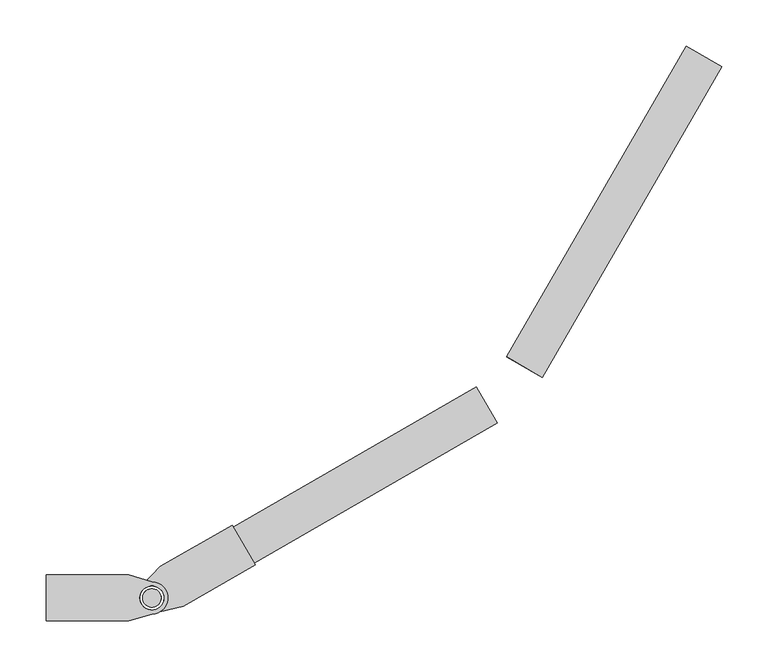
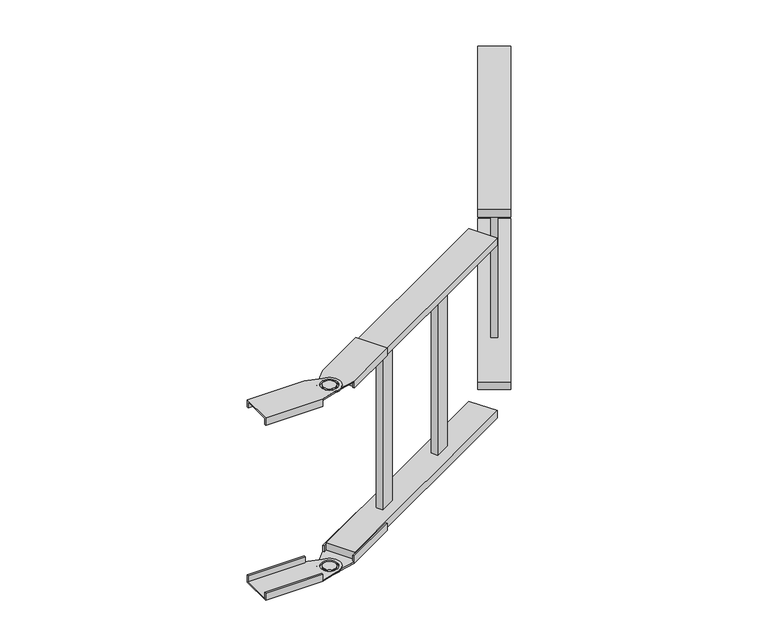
"""IFC4 building model written with IfcOpenShell, lengths in millimetres: cable carrier fitting geometry, BAKS_LD_BEND_Adjustable vertical bend_LPD : LPDC_H45."""

from ifc_helpers import new_model, si_unit, frame, origin, place, context, project, spatial, polyline, circle_curve, outline, extrude, source, transform, mapped, element, save
from ifc_brep_helpers import plane_surface, cylinder_surface, revolved_surface, advanced_brep


def cable_carrier_fitting_a79e1fa7(model_context):
    return source(origin(), model_context, "Body", "SolidModel", [
        advanced_brep(
        [(-729.7114317, 25.0, -152.0), (-639.7114317, 25.0, -152.0), (-614.7114317, 17.5, -152.0), (-614.7114317, -17.5, -152.0), (-639.7114317, -25.0, -152.0), (-729.7114317, -25.0, -152.0), (-601.7114317, 0.0, -152.0), (-627.7114317, 0.0, -152.0), (-639.7114317, -25.0, -150.0), (-614.7114317, -17.5, -150.0), (-614.7114317, 17.5, -150.0), (-639.7114317, 25.0, -150.0), (-639.7114317, 22.5, -150.0), (-729.7114317, 22.5, -150.0), (-729.7114317, -22.5, -150.0), (-639.7114317, -22.5, -150.0), (-627.7114317, 0.0, -150.0), (-601.7114317, 0.0, -150.0), (-729.7114317, 25.0, -140.0), (-639.7114317, 25.0, -140.0), (-639.7114317, -25.0, -140.0), (-729.7114317, -25.0, -140.0), (-729.7114317, -22.5, -140.0), (-729.7114317, 22.5, -140.0), (-639.7114317, -22.5, -140.0), (-639.7114317, 22.5, -140.0)],
        [
            (0, 1),
            (1, 2),
            (2, 3, circle_curve(frame((-614.7114317, 0.0, -152.0), z_axis=(0.0, 0.0, -1.0), x_axis=(-1.0, 0.0, 0.0)), 17.5)),
            (3, 4),
            (4, 5),
            (5, 0),
            (6, 7, circle_curve(frame((-614.7114317, 0.0, -152.0), z_axis=(0.0, 0.0, 1.0), x_axis=(-1.0, 0.0, 0.0)), 13.0)),
            (7, 6, circle_curve(frame((-614.7114317, 0.0, -152.0), z_axis=(0.0, 0.0, 1.0), x_axis=(-1.0, 0.0, 0.0)), 13.0)),
            (8, 9),
            (9, 10, circle_curve(frame((-614.7114317, 0.0, -150.0), z_axis=(0.0, 0.0, 1.0), x_axis=(-1.0, 0.0, 0.0)), 17.5)),
            (10, 11),
            (11, 12),
            (12, 13),
            (13, 14),
            (14, 15),
            (15, 8),
            (16, 17, circle_curve(frame((-614.7114317, 0.0, -150.0), z_axis=(0.0, 0.0, -1.0), x_axis=(-1.0, 0.0, 0.0)), 13.0)),
            (17, 16, circle_curve(frame((-614.7114317, 0.0, -150.0), z_axis=(0.0, 0.0, -1.0), x_axis=(-1.0, 0.0, 0.0)), 13.0)),
            (0, 18),
            (18, 19),
            (19, 11),
            (11, 1),
            (4, 8),
            (8, 20),
            (20, 21),
            (21, 5),
            (21, 22),
            (22, 14),
            (13, 23),
            (23, 18),
            (6, 17),
            (16, 7),
            (10, 2),
            (9, 3),
            (20, 24),
            (24, 22),
            (24, 15),
            (23, 25),
            (25, 19),
            (25, 12),
        ],
        [
            plane_surface(frame((-639.7114317, 25.0, -152.0), z_axis=(0.0, 0.0, -1.0), x_axis=(1.0, 0.0, 0.0))),
            plane_surface(frame((-639.7114317, 25.0, -150.0), z_axis=(0.0, 0.0, 1.0), x_axis=(-1.0, 0.0, 0.0))),
            plane_surface(frame((-729.7114317, 25.0, -152.0), z_axis=(0.0, 1.0, 0.0), x_axis=(0.0, 0.0, 1.0))),
            plane_surface(frame((-639.7114317, -25.0, -152.0), z_axis=(0.0, -1.0, 0.0), x_axis=(0.0, 0.0, 1.0))),
            plane_surface(frame((-729.7114317, -25.0, -152.0), z_axis=(-1.0, 0.0, 0.0), x_axis=(0.0, 0.0, 1.0))),
            revolved_surface(polyline([(-627.7114317, 0.0, -152.0), (-627.7114317, 0.0, -150.0)]), (-614.7114317, 0.0, -150.0), (0.0, 0.0, -1.0)),
            plane_surface(frame((-639.7114317, 25.0, -152.0), z_axis=(0.28734788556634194, 0.9578262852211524, 0.0), x_axis=(0.0, 0.0, 1.0))),
            cylinder_surface(frame((-614.7114317, 0.0, -150.0), z_axis=(0.0, 0.0, -1.0), x_axis=(-1.0, 0.0, 0.0)), 17.5),
            plane_surface(frame((-614.7114317, -17.5, -152.0), z_axis=(0.2873478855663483, -0.9578262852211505, 0.0), x_axis=(0.0, 0.0, 1.0))),
            plane_surface(frame((-639.7114317, -22.5, -140.0), z_axis=(0.0, 0.0, 1.0), x_axis=(-1.0, 0.0, 0.0))),
            plane_surface(frame((-729.7114317, -22.5, -150.0), z_axis=(0.0, 1.0, 0.0), x_axis=(0.0, 0.0, 1.0))),
            plane_surface(frame((-639.7114317, -22.5, -150.0), z_axis=(1.0, 0.0, 0.0), x_axis=(0.0, 0.0, 1.0))),
            plane_surface(frame((-639.7114317, 25.0, -140.0), z_axis=(0.0, 0.0, 1.0), x_axis=(-1.0, 0.0, 0.0))),
            plane_surface(frame((-639.7114317, 25.0, -150.0), z_axis=(1.0, 0.0, 0.0), x_axis=(0.0, 0.0, 1.0))),
            plane_surface(frame((-639.7114317, 22.5, -150.0), z_axis=(0.0, -1.0, 0.0), x_axis=(0.0, 0.0, 1.0))),
        ],
        [
            (0, [[1, 2, 3, 4, 5, 6], [7, 8]]),
            (1, [[9, 10, 11, 12, 13, 14, 15, 16], [17, 18]]),
            (2, [[-1, 19, 20, 21, 22]]),
            (3, [[-5, 23, 24, 25, 26]]),
            (4, [[-19, -6, -26, 27, 28, -14, 29, 30]]),
            (5, [[31, -17, 32, -7]]),
            (5, [[-31, -8, -32, -18]]),
            (6, [[-2, -22, -11, 33]]),
            (7, [[-3, -33, -10, 34]]),
            (8, [[-4, -34, -9, -23]]),
            (9, [[-27, -25, 35, 36]]),
            (10, [[-36, 37, -15, -28]]),
            (11, [[-35, -24, -16, -37]]),
            (12, [[-30, 38, 39, -20]]),
            (13, [[-39, 40, -12, -21]]),
            (14, [[-38, -29, -13, -40]]),
        ],
    ),
        advanced_brep(
        [(-604.7114317, 0.0, -152.0), (-624.7114317, 0.0, -152.0), (-624.7114317, 0.0, -150.0), (-604.7114317, 0.0, -150.0)],
        [
            (0, 1, circle_curve(frame((-614.7114317, 0.0, -152.0), z_axis=(0.0, 0.0, -1.0), x_axis=(-1.0, 0.0, 0.0)), 10.0)),
            (1, 0, circle_curve(frame((-614.7114317, 0.0, -152.0), z_axis=(0.0, 0.0, -1.0), x_axis=(-1.0, 0.0, 0.0)), 10.0)),
            (2, 3, circle_curve(frame((-614.7114317, 0.0, -150.0), z_axis=(0.0, 0.0, 1.0), x_axis=(-1.0, 0.0, 0.0)), 10.0)),
            (3, 2, circle_curve(frame((-614.7114317, 0.0, -150.0), z_axis=(0.0, 0.0, 1.0), x_axis=(-1.0, 0.0, 0.0)), 10.0)),
            (0, 3),
            (2, 1),
        ],
        [
            plane_surface(frame((-639.7114317, 25.0, -152.0), z_axis=(0.0, 0.0, -1.0), x_axis=(1.0, 0.0, 0.0))),
            plane_surface(frame((-639.7114317, 25.0, -150.0), z_axis=(0.0, 0.0, 1.0), x_axis=(-1.0, 0.0, 0.0))),
            cylinder_surface(frame((-614.7114317, 0.0, -150.0), z_axis=(0.0, 0.0, 1.0), x_axis=(-1.0, 0.0, 0.0)), 10.0),
        ],
        [
            (0, [[1, 2]]),
            (1, [[3, 4]]),
            (2, [[5, -3, 6, -1]]),
            (2, [[-5, -2, -6, -4]]),
        ],
    ),
        advanced_brep(
        [(-527.6185103, 79.1506351, -152.0), (-502.6185103, 35.8493649, -152.0), (-580.5607966, -9.1506351, -152.0), (-605.9614317, -15.1554446, -152.0), (-623.4614317, 15.1554446, -152.0), (-605.5607966, 34.1506351, -152.0), (-625.969762, -6.5, -152.0), (-603.4531015, 6.5, -152.0), (-580.5607966, -9.1506351, -150.0), (-581.8107966, -6.9855716, -150.0), (-503.8685103, 38.0144284, -150.0), (-526.3685103, 76.9855716, -150.0), (-604.3107966, 31.9855716, -150.0), (-605.5607966, 34.1506351, -150.0), (-623.4614317, 15.1554446, -150.0), (-605.9614317, -15.1554446, -150.0), (-603.4531015, 6.5, -150.0), (-625.969762, -6.5, -150.0), (-605.5607966, 34.1506351, -140.0), (-527.6185103, 79.1506351, -140.0), (-502.6185103, 35.8493649, -140.0), (-580.5607966, -9.1506351, -140.0), (-526.3685103, 76.9855716, -140.0), (-503.8685103, 38.0144284, -140.0), (-581.8107966, -6.9855716, -140.0), (-604.3107966, 31.9855716, -140.0)],
        [
            (0, 1),
            (1, 2),
            (2, 3),
            (3, 4, circle_curve(frame((-614.7114317, 0.0, -152.0), z_axis=(0.0, 0.0, -1.0), x_axis=(0.8660254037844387, 0.49999999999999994, 0.0)), 17.5)),
            (4, 5),
            (5, 0),
            (6, 7, circle_curve(frame((-614.7114317, 0.0, -152.0), z_axis=(0.0, 0.0, 1.0), x_axis=(0.8660254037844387, 0.49999999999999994, 0.0)), 13.0)),
            (7, 6, circle_curve(frame((-614.7114317, 0.0, -152.0), z_axis=(0.0, 0.0, 1.0), x_axis=(0.8660254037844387, 0.49999999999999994, 0.0)), 13.0)),
            (8, 9),
            (9, 10),
            (10, 11),
            (11, 12),
            (12, 13),
            (13, 14),
            (14, 15, circle_curve(frame((-614.7114317, 0.0, -150.0), z_axis=(0.0, 0.0, 1.0), x_axis=(0.8660254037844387, 0.49999999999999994, 0.0)), 17.5)),
            (15, 8),
            (16, 17, circle_curve(frame((-614.7114317, 0.0, -150.0), z_axis=(0.0, 0.0, -1.0), x_axis=(0.8660254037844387, 0.49999999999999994, 0.0)), 13.0)),
            (17, 16, circle_curve(frame((-614.7114317, 0.0, -150.0), z_axis=(0.0, 0.0, -1.0), x_axis=(0.8660254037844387, 0.49999999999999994, 0.0)), 13.0)),
            (5, 13),
            (13, 18),
            (18, 19),
            (19, 0),
            (1, 20),
            (20, 21),
            (21, 8),
            (8, 2),
            (19, 22),
            (22, 11),
            (10, 23),
            (23, 20),
            (7, 16),
            (17, 6),
            (4, 14),
            (3, 15),
            (23, 24),
            (24, 21),
            (9, 24),
            (18, 25),
            (25, 22),
            (12, 25),
        ],
        [
            plane_surface(frame((-605.5607966, 34.1506351, -152.0), z_axis=(0.0, 0.0, -1.0), x_axis=(-0.8660254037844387, -0.49999999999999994, 0.0))),
            plane_surface(frame((-605.5607966, 34.1506351, -150.0), z_axis=(0.0, 0.0, 1.0), x_axis=(0.8660254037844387, 0.49999999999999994, 0.0))),
            plane_surface(frame((-527.6185103, 79.1506351, -152.0), z_axis=(-0.49999999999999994, 0.8660254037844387, 0.0), x_axis=(0.0, 0.0, 1.0))),
            plane_surface(frame((-580.5607966, -9.1506351, -152.0), z_axis=(0.49999999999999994, -0.8660254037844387, 0.0), x_axis=(0.0, 0.0, 1.0))),
            plane_surface(frame((-502.6185103, 35.8493649, -152.0), z_axis=(0.8660254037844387, 0.49999999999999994, 0.0), x_axis=(0.0, 0.0, 1.0))),
            revolved_surface(polyline([(-603.4531014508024, 6.499999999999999, -152.0), (-603.4531014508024, 6.499999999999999, -150.0)]), (-614.7114317, 0.0, -150.0), (0.0, 0.0, -1.0)),
            plane_surface(frame((-605.5607966, 34.1506351, -152.0), z_axis=(-0.7277637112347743, 0.6858279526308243, 0.0), x_axis=(0.0, 0.0, 1.0))),
            cylinder_surface(frame((-614.7114317, 0.0, -150.0), z_axis=(0.0, 0.0, -1.0), x_axis=(0.8660254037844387, 0.49999999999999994, 0.0)), 17.5),
            plane_surface(frame((-605.9614317, -15.1554446, -152.0), z_axis=(0.2300625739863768, -0.9731758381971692, 0.0), x_axis=(0.0, 0.0, 1.0))),
            plane_surface(frame((-581.8107966, -6.9855716, -140.0), z_axis=(0.0, 0.0, 1.0), x_axis=(0.8660254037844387, 0.49999999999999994, 0.0))),
            plane_surface(frame((-503.8685103, 38.0144284, -150.0), z_axis=(-0.49999999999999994, 0.8660254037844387, 0.0), x_axis=(0.0, 0.0, 1.0))),
            plane_surface(frame((-581.8107966, -6.9855716, -150.0), z_axis=(-0.8660254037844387, -0.49999999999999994, 0.0), x_axis=(0.0, 0.0, 1.0))),
            plane_surface(frame((-605.5607966, 34.1506351, -140.0), z_axis=(0.0, 0.0, 1.0), x_axis=(0.8660254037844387, 0.49999999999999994, 0.0))),
            plane_surface(frame((-605.5607966, 34.1506351, -150.0), z_axis=(-0.8660254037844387, -0.49999999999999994, 0.0), x_axis=(0.0, 0.0, 1.0))),
            plane_surface(frame((-604.3107966, 31.9855716, -150.0), z_axis=(0.49999999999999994, -0.8660254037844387, 0.0), x_axis=(0.0, 0.0, 1.0))),
        ],
        [
            (0, [[1, 2, 3, 4, 5, 6], [7, 8]]),
            (1, [[9, 10, 11, 12, 13, 14, 15, 16], [17, 18]]),
            (2, [[19, 20, 21, 22, -6]]),
            (3, [[23, 24, 25, 26, -2]]),
            (4, [[27, 28, -11, 29, 30, -23, -1, -22]]),
            (5, [[-8, 31, -18, 32]]),
            (5, [[-17, -31, -7, -32]]),
            (6, [[33, -14, -19, -5]]),
            (7, [[34, -15, -33, -4]]),
            (8, [[-26, -16, -34, -3]]),
            (9, [[35, 36, -24, -30]]),
            (10, [[-29, -10, 37, -35]]),
            (11, [[-37, -9, -25, -36]]),
            (12, [[-21, 38, 39, -27]]),
            (13, [[-20, -13, 40, -38]]),
            (14, [[-40, -12, -28, -39]]),
        ],
    ),
        advanced_brep(
        [(-623.3716857, -5.0, -152.0), (-606.0511777, 5.0, -152.0), (-606.0511777, 5.0, -150.0), (-623.3716857, -5.0, -150.0)],
        [
            (0, 1, circle_curve(frame((-614.7114317, 0.0, -152.0), z_axis=(0.0, 0.0, -1.0), x_axis=(0.8660254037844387, 0.49999999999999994, 0.0)), 10.0)),
            (1, 0, circle_curve(frame((-614.7114317, 0.0, -152.0), z_axis=(0.0, 0.0, -1.0), x_axis=(0.8660254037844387, 0.49999999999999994, 0.0)), 10.0)),
            (2, 3, circle_curve(frame((-614.7114317, 0.0, -150.0), z_axis=(0.0, 0.0, 1.0), x_axis=(0.8660254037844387, 0.49999999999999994, 0.0)), 10.0)),
            (3, 2, circle_curve(frame((-614.7114317, 0.0, -150.0), z_axis=(0.0, 0.0, 1.0), x_axis=(0.8660254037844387, 0.49999999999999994, 0.0)), 10.0)),
            (1, 2),
            (3, 0),
        ],
        [
            plane_surface(frame((-605.5607966, 34.1506351, -152.0), z_axis=(0.0, 0.0, -1.0), x_axis=(-0.8660254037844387, -0.49999999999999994, 0.0))),
            plane_surface(frame((-605.5607966, 34.1506351, -150.0), z_axis=(0.0, 0.0, 1.0), x_axis=(0.8660254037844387, 0.49999999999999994, 0.0))),
            cylinder_surface(frame((-614.7114317, 0.0, -150.0), z_axis=(0.0, 0.0, 1.0), x_axis=(0.8660254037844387, 0.49999999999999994, 0.0)), 10.0),
        ],
        [
            (0, [[1, 2]]),
            (1, [[3, 4]]),
            (2, [[-2, 5, -4, 6]]),
            (2, [[-3, -5, -1, -6]]),
        ],
    ),
        advanced_brep(
        [(-729.7114317, 25.0, 152.0), (-729.7114317, -25.0, 152.0), (-639.7114317, -25.0, 152.0), (-614.7114317, -17.5, 152.0), (-614.7114317, 17.5, 152.0), (-639.7114317, 25.0, 152.0), (-601.7114317, 0.0, 152.0), (-627.7114317, 0.0, 152.0), (-639.7114317, -25.0, 150.0), (-639.7114317, -22.5, 150.0), (-729.7114317, -22.5, 150.0), (-729.7114317, 22.5, 150.0), (-639.7114317, 22.5, 150.0), (-639.7114317, 25.0, 150.0), (-614.7114317, 17.5, 150.0), (-614.7114317, -17.5, 150.0), (-627.7114317, 0.0, 150.0), (-601.7114317, 0.0, 150.0), (-639.7114317, 25.0, 140.0), (-729.7114317, 25.0, 140.0), (-729.7114317, -25.0, 140.0), (-639.7114317, -25.0, 140.0), (-729.7114317, 22.5, 140.0), (-729.7114317, -22.5, 140.0), (-639.7114317, -22.5, 140.0), (-639.7114317, 22.5, 140.0)],
        [
            (0, 1),
            (1, 2),
            (2, 3),
            (3, 4, circle_curve(frame((-614.7114317, 0.0, 152.0), z_axis=(0.0, 0.0, 1.0), x_axis=(-1.0, 0.0, 0.0)), 17.5)),
            (4, 5),
            (5, 0),
            (6, 7, circle_curve(frame((-614.7114317, 0.0, 152.0), z_axis=(0.0, 0.0, -1.0), x_axis=(-1.0, 0.0, 0.0)), 13.0)),
            (7, 6, circle_curve(frame((-614.7114317, 0.0, 152.0), z_axis=(0.0, 0.0, -1.0), x_axis=(-1.0, 0.0, 0.0)), 13.0)),
            (8, 9),
            (9, 10),
            (10, 11),
            (11, 12),
            (12, 13),
            (13, 14),
            (14, 15, circle_curve(frame((-614.7114317, 0.0, 150.0), z_axis=(0.0, 0.0, -1.0), x_axis=(-1.0, 0.0, 0.0)), 17.5)),
            (15, 8),
            (16, 17, circle_curve(frame((-614.7114317, 0.0, 150.0), z_axis=(0.0, 0.0, 1.0), x_axis=(-1.0, 0.0, 0.0)), 13.0)),
            (17, 16, circle_curve(frame((-614.7114317, 0.0, 150.0), z_axis=(0.0, 0.0, 1.0), x_axis=(-1.0, 0.0, 0.0)), 13.0)),
            (5, 13),
            (13, 18),
            (18, 19),
            (19, 0),
            (1, 20),
            (20, 21),
            (21, 8),
            (8, 2),
            (19, 22),
            (22, 11),
            (10, 23),
            (23, 20),
            (7, 16),
            (17, 6),
            (4, 14),
            (3, 15),
            (23, 24),
            (24, 21),
            (9, 24),
            (18, 25),
            (25, 22),
            (12, 25),
        ],
        [
            plane_surface(frame((-639.7114317, 25.0, 152.0), z_axis=(0.0, 0.0, 1.0), x_axis=(1.0, 0.0, 0.0))),
            plane_surface(frame((-639.7114317, 25.0, 150.0), z_axis=(0.0, 0.0, -1.0), x_axis=(-1.0, 0.0, 0.0))),
            plane_surface(frame((-729.7114317, 25.0, 152.0), z_axis=(0.0, 1.0, 0.0), x_axis=(0.0, 0.0, -1.0))),
            plane_surface(frame((-639.7114317, -25.0, 152.0), z_axis=(0.0, -1.0, 0.0), x_axis=(0.0, 0.0, -1.0))),
            plane_surface(frame((-729.7114317, -25.0, 152.0), z_axis=(-1.0, 0.0, 0.0), x_axis=(0.0, 0.0, -1.0))),
            revolved_surface(polyline([(-627.7114317, 0.0, 152.0), (-627.7114317, 0.0, 150.0)]), (-614.7114317, 0.0, 150.0), (0.0, 0.0, 1.0)),
            plane_surface(frame((-639.7114317, 25.0, 152.0), z_axis=(0.28734788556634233, 0.9578262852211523, 0.0), x_axis=(0.0, 0.0, -1.0))),
            cylinder_surface(frame((-614.7114317, 0.0, 150.0), z_axis=(0.0, 0.0, 1.0), x_axis=(-1.0, 0.0, 0.0)), 17.5),
            plane_surface(frame((-614.7114317, -17.5, 152.0), z_axis=(0.28734788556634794, -0.9578262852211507, 0.0), x_axis=(0.0, 0.0, -1.0))),
            plane_surface(frame((-639.7114317, -22.5, 140.0), z_axis=(0.0, 0.0, -1.0), x_axis=(-1.0, 0.0, 0.0))),
            plane_surface(frame((-729.7114317, -22.5, 150.0), z_axis=(0.0, 1.0, 0.0), x_axis=(0.0, 0.0, -1.0))),
            plane_surface(frame((-639.7114317, -22.5, 150.0), z_axis=(1.0, 0.0, 0.0), x_axis=(0.0, 0.0, -1.0))),
            plane_surface(frame((-639.7114317, 25.0, 140.0), z_axis=(0.0, 0.0, -1.0), x_axis=(-1.0, 0.0, 0.0))),
            plane_surface(frame((-639.7114317, 25.0, 150.0), z_axis=(1.0, 0.0, 0.0), x_axis=(0.0, 0.0, -1.0))),
            plane_surface(frame((-639.7114317, 22.5, 150.0), z_axis=(0.0, -1.0, 0.0), x_axis=(0.0, 0.0, -1.0))),
        ],
        [
            (0, [[1, 2, 3, 4, 5, 6], [7, 8]]),
            (1, [[9, 10, 11, 12, 13, 14, 15, 16], [17, 18]]),
            (2, [[19, 20, 21, 22, -6]]),
            (3, [[23, 24, 25, 26, -2]]),
            (4, [[27, 28, -11, 29, 30, -23, -1, -22]]),
            (5, [[-8, 31, -18, 32]]),
            (5, [[-17, -31, -7, -32]]),
            (6, [[33, -14, -19, -5]]),
            (7, [[34, -15, -33, -4]]),
            (8, [[-26, -16, -34, -3]]),
            (9, [[35, 36, -24, -30]]),
            (10, [[-29, -10, 37, -35]]),
            (11, [[-37, -9, -25, -36]]),
            (12, [[-21, 38, 39, -27]]),
            (13, [[-20, -13, 40, -38]]),
            (14, [[-40, -12, -28, -39]]),
        ],
    ),
        advanced_brep(
        [(-604.7114317, 0.0, 152.0), (-624.7114317, 0.0, 152.0), (-624.7114317, 0.0, 150.0), (-604.7114317, 0.0, 150.0)],
        [
            (0, 1, circle_curve(frame((-614.7114317, 0.0, 152.0), z_axis=(0.0, 0.0, 1.0), x_axis=(-1.0, 0.0, 0.0)), 10.0)),
            (1, 0, circle_curve(frame((-614.7114317, 0.0, 152.0), z_axis=(0.0, 0.0, 1.0), x_axis=(-1.0, 0.0, 0.0)), 10.0)),
            (2, 3, circle_curve(frame((-614.7114317, 0.0, 150.0), z_axis=(0.0, 0.0, -1.0), x_axis=(-1.0, 0.0, 0.0)), 10.0)),
            (3, 2, circle_curve(frame((-614.7114317, 0.0, 150.0), z_axis=(0.0, 0.0, -1.0), x_axis=(-1.0, 0.0, 0.0)), 10.0)),
            (1, 2),
            (3, 0),
        ],
        [
            plane_surface(frame((-639.7114317, 25.0, 152.0), z_axis=(0.0, 0.0, 1.0), x_axis=(1.0, 0.0, 0.0))),
            plane_surface(frame((-639.7114317, 25.0, 150.0), z_axis=(0.0, 0.0, -1.0), x_axis=(-1.0, 0.0, 0.0))),
            cylinder_surface(frame((-614.7114317, 0.0, 150.0), z_axis=(0.0, 0.0, -1.0), x_axis=(-1.0, 0.0, 0.0)), 10.0),
        ],
        [
            (0, [[1, 2]]),
            (1, [[3, 4]]),
            (2, [[-2, 5, -4, 6]]),
            (2, [[-3, -5, -1, -6]]),
        ],
    ),
        advanced_brep(
        [(-527.6185103, 79.1506351, 152.0), (-605.5607966, 34.1506351, 152.0), (-623.4614317, 15.1554446, 152.0), (-605.9614317, -15.1554446, 152.0), (-580.5607966, -9.1506351, 152.0), (-502.6185103, 35.8493649, 152.0), (-625.969762, -6.5, 152.0), (-603.4531015, 6.5, 152.0), (-580.5607966, -9.1506351, 150.0), (-605.9614317, -15.1554446, 150.0), (-623.4614317, 15.1554446, 150.0), (-605.5607966, 34.1506351, 150.0), (-604.3107966, 31.9855716, 150.0), (-526.3685103, 76.9855716, 150.0), (-503.8685103, 38.0144284, 150.0), (-581.8107966, -6.9855716, 150.0), (-603.4531015, 6.5, 150.0), (-625.969762, -6.5, 150.0), (-527.6185103, 79.1506351, 140.0), (-605.5607966, 34.1506351, 140.0), (-580.5607966, -9.1506351, 140.0), (-502.6185103, 35.8493649, 140.0), (-503.8685103, 38.0144284, 140.0), (-526.3685103, 76.9855716, 140.0), (-581.8107966, -6.9855716, 140.0), (-604.3107966, 31.9855716, 140.0)],
        [
            (0, 1),
            (1, 2),
            (2, 3, circle_curve(frame((-614.7114317, 0.0, 152.0), z_axis=(0.0, 0.0, 1.0), x_axis=(0.8660254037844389, 0.4999999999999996, 0.0)), 17.5)),
            (3, 4),
            (4, 5),
            (5, 0),
            (6, 7, circle_curve(frame((-614.7114317, 0.0, 152.0), z_axis=(0.0, 0.0, -1.0), x_axis=(0.8660254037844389, 0.4999999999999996, 0.0)), 13.0)),
            (7, 6, circle_curve(frame((-614.7114317, 0.0, 152.0), z_axis=(0.0, 0.0, -1.0), x_axis=(0.8660254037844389, 0.4999999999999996, 0.0)), 13.0)),
            (8, 9),
            (9, 10, circle_curve(frame((-614.7114317, 0.0, 150.0), z_axis=(0.0, 0.0, -1.0), x_axis=(0.8660254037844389, 0.4999999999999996, 0.0)), 17.5)),
            (10, 11),
            (11, 12),
            (12, 13),
            (13, 14),
            (14, 15),
            (15, 8),
            (16, 17, circle_curve(frame((-614.7114317, 0.0, 150.0), z_axis=(0.0, 0.0, 1.0), x_axis=(0.8660254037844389, 0.4999999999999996, 0.0)), 13.0)),
            (17, 16, circle_curve(frame((-614.7114317, 0.0, 150.0), z_axis=(0.0, 0.0, 1.0), x_axis=(0.8660254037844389, 0.4999999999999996, 0.0)), 13.0)),
            (0, 18),
            (18, 19),
            (19, 11),
            (11, 1),
            (4, 8),
            (8, 20),
            (20, 21),
            (21, 5),
            (21, 22),
            (22, 14),
            (13, 23),
            (23, 18),
            (6, 17),
            (16, 7),
            (10, 2),
            (9, 3),
            (20, 24),
            (24, 22),
            (24, 15),
            (23, 25),
            (25, 19),
            (25, 12),
        ],
        [
            plane_surface(frame((-605.5607966, 34.1506351, 152.0), z_axis=(0.0, 0.0, 1.0), x_axis=(-0.8660254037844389, -0.4999999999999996, 0.0))),
            plane_surface(frame((-605.5607966, 34.1506351, 150.0), z_axis=(0.0, 0.0, -1.0), x_axis=(0.8660254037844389, 0.4999999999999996, 0.0))),
            plane_surface(frame((-527.6185103, 79.1506351, 152.0), z_axis=(-0.4999999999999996, 0.8660254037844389, 0.0), x_axis=(0.0, 0.0, -1.0))),
            plane_surface(frame((-580.5607966, -9.1506351, 152.0), z_axis=(0.4999999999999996, -0.8660254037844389, 0.0), x_axis=(0.0, 0.0, -1.0))),
            plane_surface(frame((-502.6185103, 35.8493649, 152.0), z_axis=(0.8660254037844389, 0.4999999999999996, 0.0), x_axis=(0.0, 0.0, -1.0))),
            revolved_surface(polyline([(-603.4531014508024, 6.499999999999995, 152.0), (-603.4531014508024, 6.499999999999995, 150.0)]), (-614.7114317, 0.0, 150.0), (0.0, 0.0, 1.0)),
            plane_surface(frame((-605.5607966, 34.1506351, 152.0), z_axis=(-0.7277637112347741, 0.6858279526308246, 0.0), x_axis=(0.0, 0.0, -1.0))),
            cylinder_surface(frame((-614.7114317, 0.0, 150.0), z_axis=(0.0, 0.0, 1.0), x_axis=(0.8660254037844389, 0.4999999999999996, 0.0)), 17.5),
            plane_surface(frame((-605.9614317, -15.1554446, 152.0), z_axis=(0.23006257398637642, -0.9731758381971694, 0.0), x_axis=(0.0, 0.0, -1.0))),
            plane_surface(frame((-581.8107966, -6.9855716, 140.0), z_axis=(0.0, 0.0, -1.0), x_axis=(0.8660254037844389, 0.4999999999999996, 0.0))),
            plane_surface(frame((-503.8685103, 38.0144284, 150.0), z_axis=(-0.4999999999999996, 0.8660254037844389, 0.0), x_axis=(0.0, 0.0, -1.0))),
            plane_surface(frame((-581.8107966, -6.9855716, 150.0), z_axis=(-0.8660254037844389, -0.4999999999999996, 0.0), x_axis=(0.0, 0.0, -1.0))),
            plane_surface(frame((-605.5607966, 34.1506351, 140.0), z_axis=(0.0, 0.0, -1.0), x_axis=(0.8660254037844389, 0.4999999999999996, 0.0))),
            plane_surface(frame((-605.5607966, 34.1506351, 150.0), z_axis=(-0.8660254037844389, -0.4999999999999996, 0.0), x_axis=(0.0, 0.0, -1.0))),
            plane_surface(frame((-604.3107966, 31.9855716, 150.0), z_axis=(0.4999999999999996, -0.8660254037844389, 0.0), x_axis=(0.0, 0.0, -1.0))),
        ],
        [
            (0, [[1, 2, 3, 4, 5, 6], [7, 8]]),
            (1, [[9, 10, 11, 12, 13, 14, 15, 16], [17, 18]]),
            (2, [[-1, 19, 20, 21, 22]]),
            (3, [[-5, 23, 24, 25, 26]]),
            (4, [[-19, -6, -26, 27, 28, -14, 29, 30]]),
            (5, [[31, -17, 32, -7]]),
            (5, [[-31, -8, -32, -18]]),
            (6, [[-2, -22, -11, 33]]),
            (7, [[-3, -33, -10, 34]]),
            (8, [[-4, -34, -9, -23]]),
            (9, [[-27, -25, 35, 36]]),
            (10, [[-36, 37, -15, -28]]),
            (11, [[-35, -24, -16, -37]]),
            (12, [[-30, 38, 39, -20]]),
            (13, [[-39, 40, -12, -21]]),
            (14, [[-38, -29, -13, -40]]),
        ],
    ),
        advanced_brep(
        [(-623.3716857, -5.0, 152.0), (-606.0511777, 5.0, 152.0), (-606.0511777, 5.0, 150.0), (-623.3716857, -5.0, 150.0)],
        [
            (0, 1, circle_curve(frame((-614.7114317, 0.0, 152.0), z_axis=(0.0, 0.0, 1.0), x_axis=(0.8660254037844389, 0.4999999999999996, 0.0)), 10.0)),
            (1, 0, circle_curve(frame((-614.7114317, 0.0, 152.0), z_axis=(0.0, 0.0, 1.0), x_axis=(0.8660254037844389, 0.4999999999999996, 0.0)), 10.0)),
            (2, 3, circle_curve(frame((-614.7114317, 0.0, 150.0), z_axis=(0.0, 0.0, -1.0), x_axis=(0.8660254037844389, 0.4999999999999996, 0.0)), 10.0)),
            (3, 2, circle_curve(frame((-614.7114317, 0.0, 150.0), z_axis=(0.0, 0.0, -1.0), x_axis=(0.8660254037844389, 0.4999999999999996, 0.0)), 10.0)),
            (0, 3),
            (2, 1),
        ],
        [
            plane_surface(frame((-605.5607966, 34.1506351, 152.0), z_axis=(0.0, 0.0, 1.0), x_axis=(-0.8660254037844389, -0.4999999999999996, 0.0))),
            plane_surface(frame((-605.5607966, 34.1506351, 150.0), z_axis=(0.0, 0.0, -1.0), x_axis=(0.8660254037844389, 0.4999999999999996, 0.0))),
            cylinder_surface(frame((-614.7114317, 0.0, 150.0), z_axis=(0.0, 0.0, -1.0), x_axis=(0.8660254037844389, 0.4999999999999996, 0.0)), 10.0),
        ],
        [
            (0, [[1, 2]]),
            (1, [[3, 4]]),
            (2, [[5, -3, 6, -1]]),
            (2, [[-5, -2, -6, -4]]),
        ],
    ),
        extrude(outline(polyline([(-64.319873, 493.3061438), (-77.019873, 471.3090985), (-85.680127, 476.3090985), (-72.980127, 498.3061438), (-64.319873, 493.3061438)])), frame((0.0, 0.0, -138.0), z_axis=(0.0, 0.0, 1.0), x_axis=(1.0, 0.0, 0.0)), (0.0, 0.0, 1.0), 276.0),
        extrude(outline(polyline([(-139.319873, 363.4023332), (-152.019873, 341.4052879), (-160.680127, 346.4052879), (-147.980127, 368.4023332), (-139.319873, 363.4023332)])), frame((0.0, 0.0, -138.0), z_axis=(0.0, 0.0, 1.0), x_axis=(1.0, 0.0, 0.0)), (0.0, 0.0, 1.0), 276.0),
        extrude(outline(polyline([(-190.5144284, 239.7307621), (-229.4855716, 262.2307621), (-34.4855716, 599.9806696), (4.4855716, 577.4806696), (-190.5144284, 239.7307621)])), frame((0.0, 0.0, -150.0), z_axis=(0.0, 0.0, 1.0), x_axis=(1.0, 0.0, 0.0)), (0.0, 0.0, 1.0), 12.0),
        extrude(outline(polyline([(-190.5144284, 239.7307621), (-229.4855716, 262.2307621), (-34.4855716, 599.9806696), (4.4855716, 577.4806696), (-190.5144284, 239.7307621)])), frame((0.0, 0.0, 138.0), z_axis=(0.0, 0.0, 1.0), x_axis=(1.0, 0.0, 0.0)), (0.0, 0.0, 1.0), 12.0),
        extrude(outline(polyline([(-341.4052879, 152.019873), (-363.4023332, 139.319873), (-368.4023332, 147.980127), (-346.4052879, 160.680127), (-341.4052879, 152.019873)])), frame((0.0, 0.0, -138.0), z_axis=(0.0, 0.0, 1.0), x_axis=(1.0, 0.0, 0.0)), (0.0, 0.0, 1.0), 276.0),
        extrude(outline(polyline([(-471.3090985, 77.019873), (-493.3061438, 64.319873), (-498.3061438, 72.980127), (-476.3090985, 85.680127), (-471.3090985, 77.019873)])), frame((0.0, 0.0, -138.0), z_axis=(0.0, 0.0, 1.0), x_axis=(1.0, 0.0, 0.0)), (0.0, 0.0, 1.0), 276.0),
        extrude(outline(polyline([(-577.4806696, -4.4855716), (-599.9806696, 34.4855716), (-262.2307621, 229.4855716), (-239.7307621, 190.5144284), (-577.4806696, -4.4855716)])), frame((0.0, 0.0, -150.0), z_axis=(0.0, 0.0, 1.0), x_axis=(1.0, 0.0, 0.0)), (0.0, 0.0, 1.0), 12.0),
        extrude(outline(polyline([(-577.4806696, -4.4855716), (-599.9806696, 34.4855716), (-262.2307621, 229.4855716), (-239.7307621, 190.5144284), (-577.4806696, -4.4855716)])), frame((0.0, 0.0, 138.0), z_axis=(0.0, 0.0, 1.0), x_axis=(1.0, 0.0, 0.0)), (0.0, 0.0, 1.0), 12.0),
    ])


if __name__ == "__main__":
    model = new_model("IFC4")
    model_context = context("Model", 3, world=origin())
    ifc_project = project(units=[si_unit("LENGTHUNIT", "METRE", prefix="MILLI")], contexts=[model_context])
    site = spatial("IfcSite", under=ifc_project)
    building = spatial("IfcBuilding", under=site)
    placement = place(None, origin())
    cable_carrier_fitting_shape = cable_carrier_fitting_a79e1fa7(model_context)
    element("IfcCableCarrierFitting", 1, ObjectType="BAKS_LD_BEND_Adjustable vertical bend_LPD : LPDC_H45", at=placement, inside=building, context=model_context, shape_type="MappedRepresentation", body=[
        mapped(cable_carrier_fitting_shape, transform((0.0, 0.0, 0.0), x_axis=(1.0, 0.0, 0.0), y_axis=(0.0, 1.0, 0.0), z_axis=(0.0, 0.0, 1.0))),
    ])
    save(model, "model.ifc")
